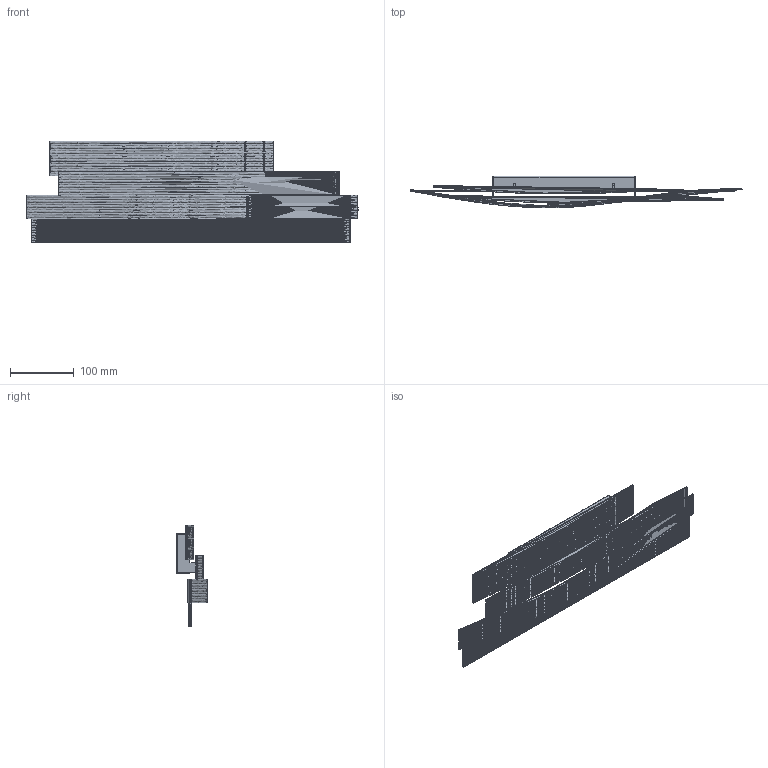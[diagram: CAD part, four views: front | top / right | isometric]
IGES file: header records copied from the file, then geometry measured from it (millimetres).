
Start section:  Autodesk DirectConnect version 8.0.53.0 ---- IGES version 5.3
Global section: file name: D:\LAURA\5-DESCARGAS\WEB\CORRECTOS\arturo-alvarez_2D-3D_LI06\LI06_3D.igs; native system: Autodesk DirectConnect 8.0.53.0; preprocessor: 8.0.53.0; author: UsuarioLaura; organization: Unknown; date: 20150203.131821; units: millimetre
Bounding box: 519.98 x 49.42 x 158.54 mm (x, y, z)
Surface area: 392338.9 mm2 (no closed solid volume)
Topology: 0 solids, 0 shells, 328 faces, 4259 edges, 4239 vertices
Faces by surface type: bspline 328
